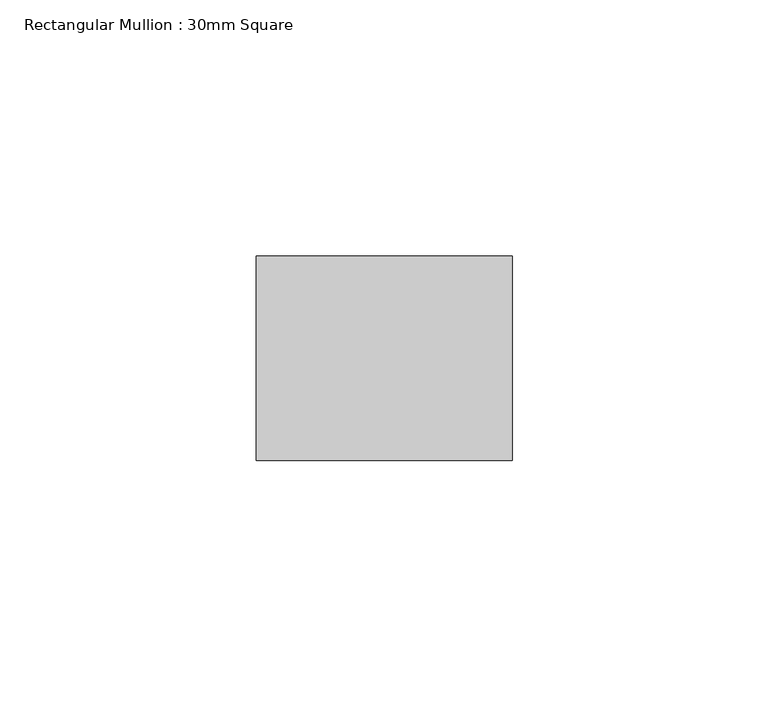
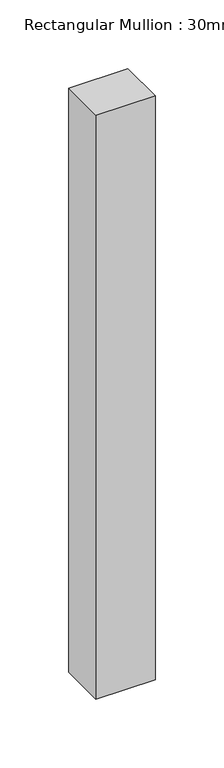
"""IFC4 building model written with IfcOpenShell, lengths in millimetres: member geometry, Rectangular Mullion : 30mm Square."""

from ifc_helpers import new_model, si_unit, frame, origin, place, context, project, spatial, polyline, outline, extrude, source, transform, mapped, element, save


def rectangular_mullion_30mm_square_5b9becf0(model_context):
    return source(origin(), model_context, "Body", "SweptSolid", [
        extrude(outline(polyline([(0.0, 20.0), (0.0, -20.0), (-50.0, -20.0), (-50.0, 20.0), (0.0, 20.0)])), frame((0.0, 0.0, -520.0), z_axis=(0.0, 0.0, 1.0), x_axis=(1.0, 0.0, 0.0)), (0.0, 0.0, 1.0), 520.0),
    ])


if __name__ == "__main__":
    model = new_model("IFC4")
    model_context = context("Model", 3, world=origin())
    ifc_project = project(units=[si_unit("LENGTHUNIT", "METRE", prefix="MILLI")], contexts=[model_context])
    site = spatial("IfcSite", under=ifc_project)
    building = spatial("IfcBuilding", under=site)
    placement = place(None, origin())
    rectangular_mullion_30mm_square_shape = rectangular_mullion_30mm_square_5b9becf0(model_context)
    element("IfcMember", 1, ObjectType="Rectangular Mullion : 30mm Square", at=placement, inside=building, context=model_context, shape_type="MappedRepresentation", body=[
        mapped(rectangular_mullion_30mm_square_shape, transform((0.0, 0.0, 0.0), x_axis=(1.0, 0.0, 0.0), y_axis=(0.0, 1.0, 0.0), z_axis=(0.0, 0.0, 1.0))),
    ])
    save(model, "model.ifc")
